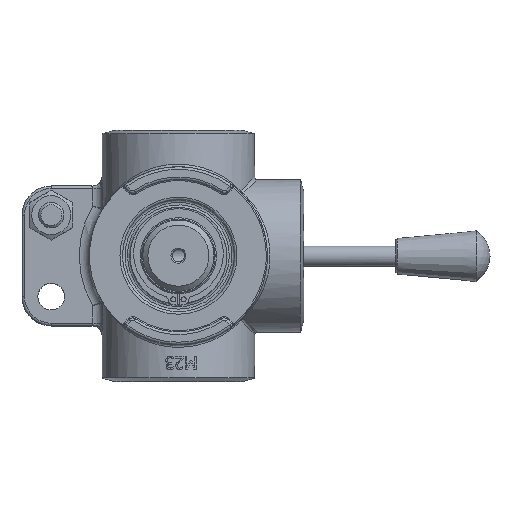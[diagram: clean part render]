
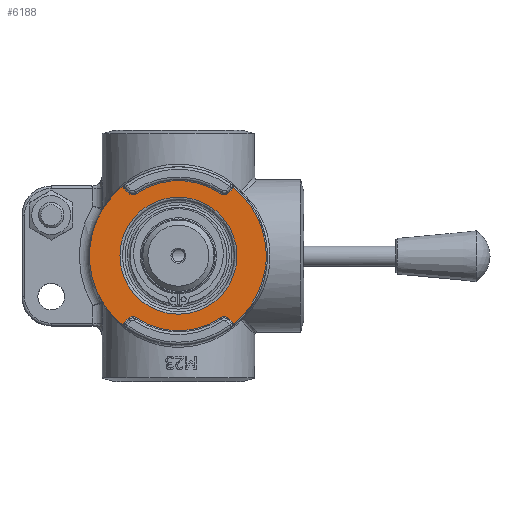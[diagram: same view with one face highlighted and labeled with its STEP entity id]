
A CAD part, top view. The second image highlights one B-rep face of the part: STEP entity #6188.
In plain terms, the highlighted planar face has unit normal (0, 0, 1).
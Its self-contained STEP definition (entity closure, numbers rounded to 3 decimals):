
#5629=CARTESIAN_POINT('',(21.669,-26.846,93.));
#5630=VERTEX_POINT('',#5629);
#5672=CARTESIAN_POINT('',(34.088,-5.314,93.));
#5673=VERTEX_POINT('',#5672);
#5681=CARTESIAN_POINT('',(0.,0.,93.));
#5682=DIRECTION('',(0.,0.,-1.0));
#5683=DIRECTION('',(0.9,-0.435,0.));
#5684=AXIS2_PLACEMENT_3D('',#5681,#5682,#5683);
#5685=CIRCLE('',#5684,34.5);
#5686=EDGE_CURVE('',#5673,#5630,#5685,.T.);
#5704=CARTESIAN_POINT('',(34.088,5.314,93.));
#5705=VERTEX_POINT('',#5704);
#5724=CARTESIAN_POINT('',(21.669,26.846,93.));
#5725=VERTEX_POINT('',#5724);
#5733=CARTESIAN_POINT('',(0.,0.,93.));
#5734=DIRECTION('',(0.,0.,-1.0));
#5735=DIRECTION('',(0.9,0.435,0.));
#5736=AXIS2_PLACEMENT_3D('',#5733,#5734,#5735);
#5737=CIRCLE('',#5736,34.5);
#5738=EDGE_CURVE('',#5725,#5705,#5737,.T.);
#5844=CARTESIAN_POINT('',(34.088,5.314,93.));
#5845=CARTESIAN_POINT('',(34.323,3.806,93.));
#5846=CARTESIAN_POINT('',(34.659,1.276,93.));
#5847=CARTESIAN_POINT('',(34.534,-2.293,93.));
#5848=CARTESIAN_POINT('',(34.245,-4.309,93.));
#5849=CARTESIAN_POINT('',(34.088,-5.314,93.));
#5850=B_SPLINE_CURVE_WITH_KNOTS('',3,(#5844,#5845,#5846,#5847,#5848,#5849),.UNSPECIFIED.,.F.,.U.,(4,1,1,4),(-1.069,-0.611,-0.305,0.0),.UNSPECIFIED.);
#5851=EDGE_CURVE('',#5705,#5673,#5850,.T.);
#5872=CARTESIAN_POINT('',(21.305,-26.255,93.));
#5873=VERTEX_POINT('',#5872);
#5874=CARTESIAN_POINT('',(20.245,-27.316,93.));
#5875=DIRECTION('',(0.,0.,1.0));
#5876=DIRECTION('',(0.997,-0.074,0.));
#5877=AXIS2_PLACEMENT_3D('',#5874,#5875,#5876);
#5878=CIRCLE('',#5877,1.5);
#5879=EDGE_CURVE('',#5630,#5873,#5878,.T.);
#5932=CARTESIAN_POINT('',(-21.74,-27.429,93.));
#5933=VERTEX_POINT('',#5932);
#5945=CARTESIAN_POINT('',(-21.74,27.429,93.));
#5946=VERTEX_POINT('',#5945);
#5947=CARTESIAN_POINT('',(0.,0.,93.));
#5948=DIRECTION('',(0.0,0.0,1.0));
#5949=DIRECTION('',(0.0,-1.0,0.0));
#5950=AXIS2_PLACEMENT_3D('',#5947,#5948,#5949);
#5951=CIRCLE('',#5950,35.0);
#5952=EDGE_CURVE('',#5946,#5933,#5951,.T.);
#6056=CARTESIAN_POINT('',(0.,0.,93.));
#6057=DIRECTION('',(0.0,0.0,1.0));
#6058=DIRECTION('',(0.0,1.0,0.0));
#6059=AXIS2_PLACEMENT_3D('',#6056,#6057,#6058);
#6060=PLANE('',#6059);
#6061=ORIENTED_EDGE('',*,*,#5686,.F.);
#6062=ORIENTED_EDGE('',*,*,#5851,.F.);
#6063=ORIENTED_EDGE('',*,*,#5738,.F.);
#6064=CARTESIAN_POINT('',(21.305,26.255,93.));
#6065=VERTEX_POINT('',#6064);
#6066=CARTESIAN_POINT('',(20.245,27.316,93.));
#6067=DIRECTION('',(0.,0.,1.0));
#6068=DIRECTION('',(0.997,0.074,0.));
#6069=AXIS2_PLACEMENT_3D('',#6066,#6067,#6068);
#6070=CIRCLE('',#6069,1.5);
#6071=EDGE_CURVE('',#6065,#5725,#6070,.T.);
#6072=ORIENTED_EDGE('',*,*,#6071,.F.);
#6073=CARTESIAN_POINT('',(19.751,24.701,93.));
#6074=VERTEX_POINT('',#6073);
#6075=CARTESIAN_POINT('',(19.751,24.701,93.));
#6076=DIRECTION('',(0.707,0.707,0.0));
#6077=VECTOR('',#6076,2.198);
#6078=LINE('',#6075,#6077);
#6079=EDGE_CURVE('',#6074,#6065,#6078,.T.);
#6080=ORIENTED_EDGE('',*,*,#6079,.F.);
#6081=CARTESIAN_POINT('',(16.579,24.401,93.));
#6082=VERTEX_POINT('',#6081);
#6083=CARTESIAN_POINT('',(17.983,26.469,93.));
#6084=DIRECTION('',(0.,0.,1.0));
#6085=DIRECTION('',(0.094,-0.996,0.));
#6086=AXIS2_PLACEMENT_3D('',#6083,#6084,#6085);
#6087=CIRCLE('',#6086,2.5);
#6088=EDGE_CURVE('',#6082,#6074,#6087,.T.);
#6089=ORIENTED_EDGE('',*,*,#6088,.F.);
#6090=CARTESIAN_POINT('',(-16.579,24.401,93.));
#6091=VERTEX_POINT('',#6090);
#6092=CARTESIAN_POINT('',(0.,0.,93.));
#6093=DIRECTION('',(0.0,0.0,-1.0));
#6094=DIRECTION('',(0.0,1.0,0.0));
#6095=AXIS2_PLACEMENT_3D('',#6092,#6093,#6094);
#6096=CIRCLE('',#6095,29.5);
#6097=EDGE_CURVE('',#6091,#6082,#6096,.T.);
#6098=ORIENTED_EDGE('',*,*,#6097,.F.);
#6099=CARTESIAN_POINT('',(-19.751,24.701,93.));
#6100=VERTEX_POINT('',#6099);
#6101=CARTESIAN_POINT('',(-17.983,26.469,93.));
#6102=DIRECTION('',(0.,0.,1.0));
#6103=DIRECTION('',(-0.094,-0.996,0.));
#6104=AXIS2_PLACEMENT_3D('',#6101,#6102,#6103);
#6105=CIRCLE('',#6104,2.5);
#6106=EDGE_CURVE('',#6100,#6091,#6105,.T.);
#6107=ORIENTED_EDGE('',*,*,#6106,.F.);
#6108=CARTESIAN_POINT('',(-21.305,26.255,93.));
#6109=VERTEX_POINT('',#6108);
#6110=CARTESIAN_POINT('',(-21.305,26.255,93.));
#6111=DIRECTION('',(0.707,-0.707,0.0));
#6112=VECTOR('',#6111,2.198);
#6113=LINE('',#6110,#6112);
#6114=EDGE_CURVE('',#6109,#6100,#6113,.T.);
#6115=ORIENTED_EDGE('',*,*,#6114,.F.);
#6116=CARTESIAN_POINT('',(-20.245,27.316,93.));
#6117=DIRECTION('',(0.,0.,1.0));
#6118=DIRECTION('',(-0.997,0.074,0.));
#6119=AXIS2_PLACEMENT_3D('',#6116,#6117,#6118);
#6120=CIRCLE('',#6119,1.5);
#6121=EDGE_CURVE('',#5946,#6109,#6120,.T.);
#6122=ORIENTED_EDGE('',*,*,#6121,.F.);
#6123=ORIENTED_EDGE('',*,*,#5952,.T.);
#6124=CARTESIAN_POINT('',(-21.305,-26.255,93.));
#6125=VERTEX_POINT('',#6124);
#6126=CARTESIAN_POINT('',(-20.245,-27.316,93.));
#6127=DIRECTION('',(0.,0.,1.0));
#6128=DIRECTION('',(-0.997,-0.074,0.));
#6129=AXIS2_PLACEMENT_3D('',#6126,#6127,#6128);
#6130=CIRCLE('',#6129,1.5);
#6131=EDGE_CURVE('',#6125,#5933,#6130,.T.);
#6132=ORIENTED_EDGE('',*,*,#6131,.F.);
#6133=CARTESIAN_POINT('',(-19.751,-24.701,93.));
#6134=VERTEX_POINT('',#6133);
#6135=CARTESIAN_POINT('',(-19.751,-24.701,93.));
#6136=DIRECTION('',(-0.707,-0.707,0.0));
#6137=VECTOR('',#6136,2.198);
#6138=LINE('',#6135,#6137);
#6139=EDGE_CURVE('',#6134,#6125,#6138,.T.);
#6140=ORIENTED_EDGE('',*,*,#6139,.F.);
#6141=CARTESIAN_POINT('',(-16.579,-24.401,93.));
#6142=VERTEX_POINT('',#6141);
#6143=CARTESIAN_POINT('',(-17.983,-26.469,93.));
#6144=DIRECTION('',(0.,0.,1.0));
#6145=DIRECTION('',(-0.094,0.996,0.));
#6146=AXIS2_PLACEMENT_3D('',#6143,#6144,#6145);
#6147=CIRCLE('',#6146,2.5);
#6148=EDGE_CURVE('',#6142,#6134,#6147,.T.);
#6149=ORIENTED_EDGE('',*,*,#6148,.F.);
#6150=CARTESIAN_POINT('',(16.579,-24.401,93.));
#6151=VERTEX_POINT('',#6150);
#6152=CARTESIAN_POINT('',(0.,0.,93.));
#6153=DIRECTION('',(0.0,0.0,-1.0));
#6154=DIRECTION('',(0.0,-1.0,0.0));
#6155=AXIS2_PLACEMENT_3D('',#6152,#6153,#6154);
#6156=CIRCLE('',#6155,29.5);
#6157=EDGE_CURVE('',#6151,#6142,#6156,.T.);
#6158=ORIENTED_EDGE('',*,*,#6157,.F.);
#6159=CARTESIAN_POINT('',(19.751,-24.701,93.));
#6160=VERTEX_POINT('',#6159);
#6161=CARTESIAN_POINT('',(17.983,-26.469,93.));
#6162=DIRECTION('',(0.,0.,1.0));
#6163=DIRECTION('',(0.094,0.996,0.));
#6164=AXIS2_PLACEMENT_3D('',#6161,#6162,#6163);
#6165=CIRCLE('',#6164,2.5);
#6166=EDGE_CURVE('',#6160,#6151,#6165,.T.);
#6167=ORIENTED_EDGE('',*,*,#6166,.F.);
#6168=CARTESIAN_POINT('',(21.305,-26.255,93.));
#6169=DIRECTION('',(-0.707,0.707,0.0));
#6170=VECTOR('',#6169,2.198);
#6171=LINE('',#6168,#6170);
#6172=EDGE_CURVE('',#5873,#6160,#6171,.T.);
#6173=ORIENTED_EDGE('',*,*,#6172,.F.);
#6174=ORIENTED_EDGE('',*,*,#5879,.F.);
#6175=EDGE_LOOP('',(#6061,#6062,#6063,#6072,#6080,#6089,#6098,#6107,#6115,#6122,#6123,#6132,#6140,#6149,#6158,#6167,#6173,#6174));
#6176=FACE_OUTER_BOUND('',#6175,.T.);
#6177=CARTESIAN_POINT('',(-23.,0.,93.));
#6178=VERTEX_POINT('',#6177);
#6179=CARTESIAN_POINT('',(0.,0.,93.));
#6180=DIRECTION('',(0.0,0.0,1.0));
#6181=DIRECTION('',(1.0,0.0,0.0));
#6182=AXIS2_PLACEMENT_3D('',#6179,#6180,#6181);
#6183=CIRCLE('',#6182,23.);
#6184=EDGE_CURVE('',#6178,#6178,#6183,.T.);
#6185=ORIENTED_EDGE('',*,*,#6184,.F.);
#6186=EDGE_LOOP('',(#6185));
#6187=FACE_BOUND('',#6186,.T.);
#6188=ADVANCED_FACE('',(#6176,#6187),#6060,.T.);
